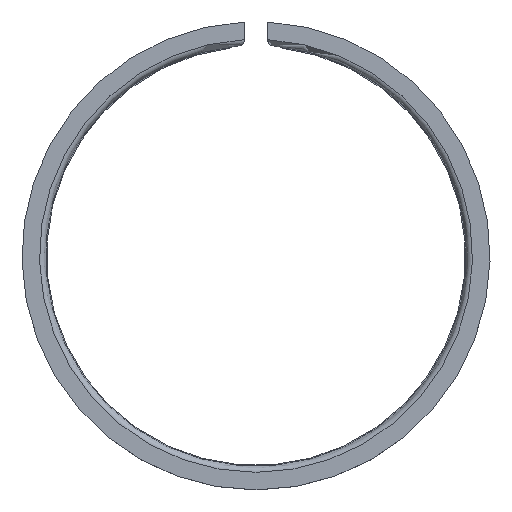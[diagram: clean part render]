
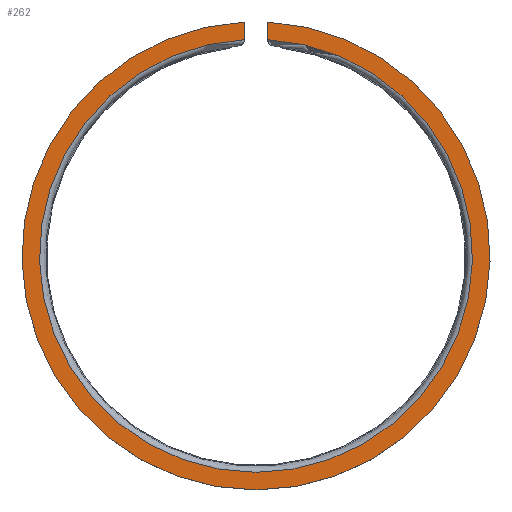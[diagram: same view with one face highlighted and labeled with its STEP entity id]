
A CAD part, top view. The second image highlights one B-rep face of the part: STEP entity #262.
In plain terms, the highlighted planar face has unit normal (0, 0, 1).
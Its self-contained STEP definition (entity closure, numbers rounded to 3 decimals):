
#45=FACE_OUTER_BOUND('',#61,.T.);
#61=EDGE_LOOP('',(#236,#237,#238,#239));
#67=CIRCLE('',#295,18.5);
#71=CIRCLE('',#310,20.);
#86=LINE('',#497,#104);
#88=LINE('',#505,#106);
#104=VECTOR('',#372,10.);
#106=VECTOR('',#382,10.);
#119=VERTEX_POINT('',#433);
#120=VERTEX_POINT('',#435);
#129=VERTEX_POINT('',#495);
#131=VERTEX_POINT('',#504);
#147=EDGE_CURVE('',#119,#120,#67,.T.);
#162=EDGE_CURVE('',#119,#129,#86,.T.);
#165=EDGE_CURVE('',#131,#120,#88,.T.);
#167=EDGE_CURVE('',#131,#129,#71,.T.);
#236=ORIENTED_EDGE('',*,*,#147,.F.);
#237=ORIENTED_EDGE('',*,*,#162,.T.);
#238=ORIENTED_EDGE('',*,*,#167,.F.);
#239=ORIENTED_EDGE('',*,*,#165,.T.);
#247=PLANE('',#311);
#262=ADVANCED_FACE('',(#45),#247,.T.);
#295=AXIS2_PLACEMENT_3D('',#436,#346,#347);
#310=AXIS2_PLACEMENT_3D('',#508,#386,#387);
#311=AXIS2_PLACEMENT_3D('',#509,#388,#389);
#346=DIRECTION('center_axis',(0.,0.,1.));
#347=DIRECTION('ref_axis',(0.,-1.,0.));
#372=DIRECTION('',(0.,1.,0.));
#382=DIRECTION('',(0.,-1.,0.));
#386=DIRECTION('center_axis',(0.,0.,-1.));
#387=DIRECTION('ref_axis',(1.,0.,0.));
#388=DIRECTION('center_axis',(0.,0.,1.));
#389=DIRECTION('ref_axis',(1.,0.,0.));
#433=CARTESIAN_POINT('',(-1.,18.473,2.));
#435=CARTESIAN_POINT('',(1.,18.473,2.));
#436=CARTESIAN_POINT('Origin',(0.,0.,2.));
#495=CARTESIAN_POINT('',(-1.,19.975,2.));
#497=CARTESIAN_POINT('',(-1.,17.75,2.));
#504=CARTESIAN_POINT('',(1.,19.975,2.));
#505=CARTESIAN_POINT('',(1.,20.25,2.));
#508=CARTESIAN_POINT('Origin',(0.,0.,2.));
#509=CARTESIAN_POINT('Origin',(0.,20.,2.));
